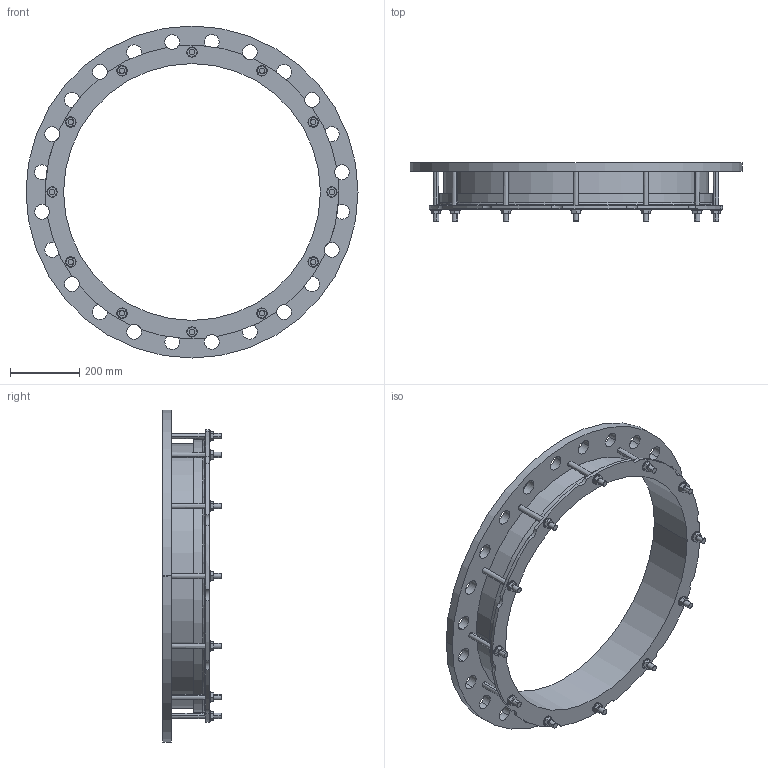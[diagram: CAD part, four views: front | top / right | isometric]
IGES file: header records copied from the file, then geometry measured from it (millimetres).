
Start section:  PTC IGES file: 738x700pn25_12not.igs
Global section: file name: 738x700pn25_12not.igs; native system: Creo Parametric by PTC Inc.; preprocessor: 2016130; author: mfairey; organization: Unknown; date: 20190404.141756; units: millimetre
Bounding box: 960 x 169 x 960 mm (x, y, z)
Surface area: 1524200.5 mm2 (no closed solid volume)
Topology: 0 solids, 0 shells, 268 faces, 1436 edges, 1436 vertices
Faces by surface type: revolution 156, bspline 112
